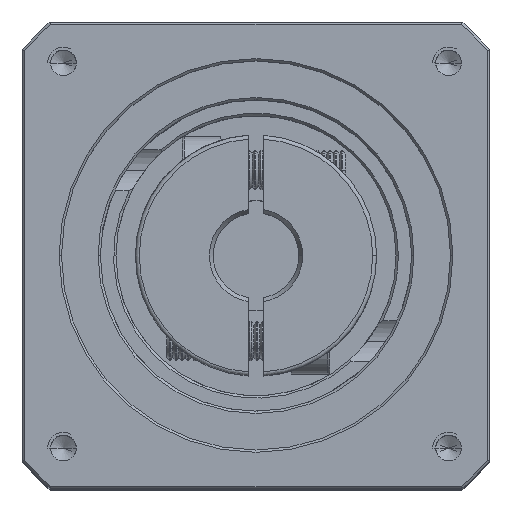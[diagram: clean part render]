
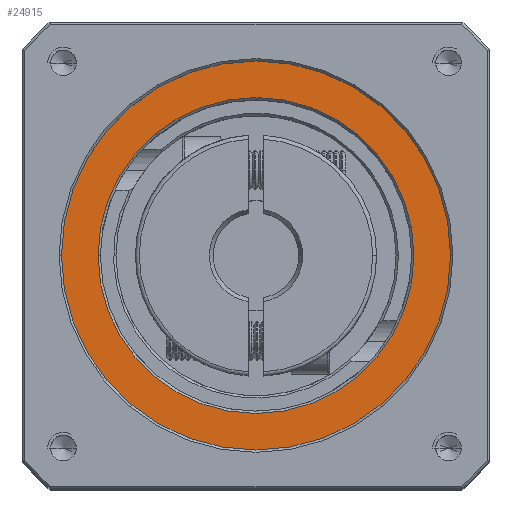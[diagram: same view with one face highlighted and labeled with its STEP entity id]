
A CAD part, top view. The second image highlights one B-rep face of the part: STEP entity #24915.
In plain terms, the highlighted planar face has unit normal (0, 0, 1).
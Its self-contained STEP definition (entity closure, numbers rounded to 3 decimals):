
#11683 = DIRECTION ( 'NONE',  ( 1., 0., 0. ) ) ;
#16023 = CARTESIAN_POINT ( 'NONE',  ( -47.069, 33.271, -4.382 ) ) ;
#16963 = EDGE_CURVE ( 'NONE', #48285, #60908, #92966, .T. ) ;
#17542 = CARTESIAN_POINT ( 'NONE',  ( -47.069, 33.271, -4.382 ) ) ;
#20320 = VERTEX_POINT ( 'NONE', #68736 ) ;
#20775 = CARTESIAN_POINT ( 'NONE',  ( -47.069, 33.271, -4.382 ) ) ;
#23746 = DIRECTION ( 'NONE',  ( 1., 0., 0. ) ) ;
#24915 = ADVANCED_FACE ( 'NONE', ( #84221, #86700 ), #74656, .T. ) ;
#25796 = ORIENTED_EDGE ( 'NONE', *, *, #92515, .T. ) ;
#30633 = ORIENTED_EDGE ( 'NONE', *, *, #101314, .T. ) ;
#34020 = DIRECTION ( 'NONE',  ( 1., 0., 0. ) ) ;
#35823 = DIRECTION ( 'NONE',  ( 0., 0., 1. ) ) ;
#38206 = CIRCLE ( 'NONE', #92110, 20.3 ) ;
#38657 = VERTEX_POINT ( 'NONE', #82499 ) ;
#40485 = CARTESIAN_POINT ( 'NONE',  ( -47.069, 33.271, -4.382 ) ) ;
#42919 = EDGE_LOOP ( 'NONE', ( #71966, #25796 ) ) ;
#46110 = CIRCLE ( 'NONE', #97719, 20.3 ) ;
#47396 = AXIS2_PLACEMENT_3D ( 'NONE', #40485, #96146, #23746 ) ;
#48285 = VERTEX_POINT ( 'NONE', #78291 ) ;
#51049 = AXIS2_PLACEMENT_3D ( 'NONE', #90701, #98986, #69666 ) ;
#55237 = DIRECTION ( 'NONE',  ( 0., 0., -1. ) ) ;
#55588 = DIRECTION ( 'NONE',  ( 1., 0., 0. ) ) ;
#57861 = DIRECTION ( 'NONE',  ( 0., 0., -1. ) ) ;
#60908 = VERTEX_POINT ( 'NONE', #96519 ) ;
#63946 = EDGE_CURVE ( 'NONE', #20320, #38657, #38206, .T. ) ;
#68736 = CARTESIAN_POINT ( 'NONE',  ( -67.369, 33.271, -4.382 ) ) ;
#69666 = DIRECTION ( 'NONE',  ( 1., 0., 0. ) ) ;
#71966 = ORIENTED_EDGE ( 'NONE', *, *, #16963, .T. ) ;
#74656 = PLANE ( 'NONE',  #51049 ) ;
#75501 = CIRCLE ( 'NONE', #90136, 25. ) ;
#78291 = CARTESIAN_POINT ( 'NONE',  ( -22.069, 33.271, -4.382 ) ) ;
#82499 = CARTESIAN_POINT ( 'NONE',  ( -26.769, 33.271, -4.382 ) ) ;
#84221 = FACE_BOUND ( 'NONE', #90326, .T. ) ;
#86700 = FACE_OUTER_BOUND ( 'NONE', #42919, .T. ) ;
#90136 = AXIS2_PLACEMENT_3D ( 'NONE', #20775, #35823, #11683 ) ;
#90326 = EDGE_LOOP ( 'NONE', ( #30633, #94503 ) ) ;
#90701 = CARTESIAN_POINT ( 'NONE',  ( -47.069, 33.271, -4.382 ) ) ;
#92110 = AXIS2_PLACEMENT_3D ( 'NONE', #16023, #55237, #55588 ) ;
#92515 = EDGE_CURVE ( 'NONE', #60908, #48285, #75501, .T. ) ;
#92966 = CIRCLE ( 'NONE', #47396, 25. ) ;
#94503 = ORIENTED_EDGE ( 'NONE', *, *, #63946, .T. ) ;
#96146 = DIRECTION ( 'NONE',  ( 0., 0., 1. ) ) ;
#96519 = CARTESIAN_POINT ( 'NONE',  ( -72.069, 33.271, -4.382 ) ) ;
#97719 = AXIS2_PLACEMENT_3D ( 'NONE', #17542, #57861, #34020 ) ;
#98986 = DIRECTION ( 'NONE',  ( 0., 0., 1. ) ) ;
#101314 = EDGE_CURVE ( 'NONE', #38657, #20320, #46110, .T. ) ;
